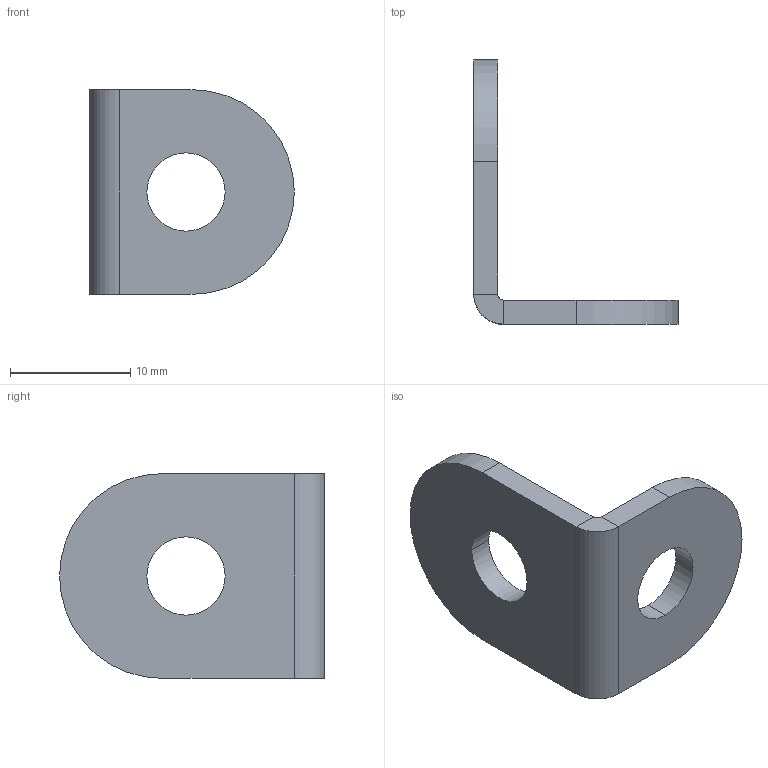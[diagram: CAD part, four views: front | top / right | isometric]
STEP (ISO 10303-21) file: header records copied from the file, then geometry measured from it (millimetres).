
FILE_DESCRIPTION (( 'STEP AP214' ), '1' );
FILE_NAME ('1C.906.002.STEP', '2010-12-02T15:45:26', ( 'Techniczny' ), ( 'RST ROZTOCZE' ), 'SwSTEP 2.0', 'SolidWorks 2010', '' );
FILE_SCHEMA (( 'AUTOMOTIVE_DESIGN' ));
Length unit declared in the file: millimetre
Products named in the file (1): 1C.906.002
Bounding box: 17 x 22 x 17 mm (x, y, z)
Volume: 979.3 mm3; surface area: 1245.3 mm2
Topology: 1 solids, 1 shells, 20 faces, 46 edges, 28 vertices
Faces by surface type: cylinder 10, plane 10
Entity records: 608 total; most frequent: DIRECTION 108, CARTESIAN_POINT 95, ORIENTED_EDGE 92, EDGE_CURVE 46, AXIS2_PLACEMENT_3D 41, VERTEX_POINT 28, LINE 26, VECTOR 26
